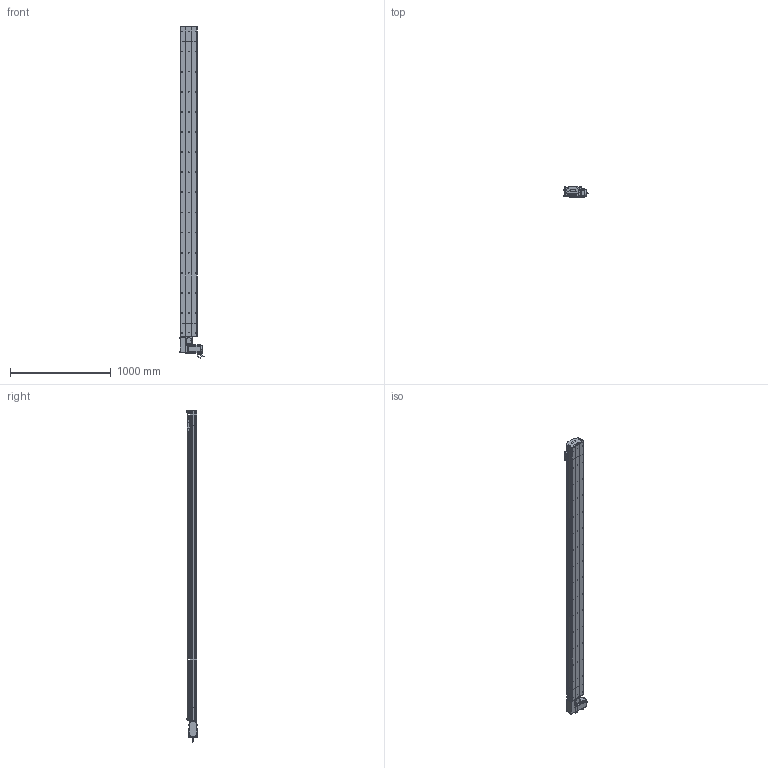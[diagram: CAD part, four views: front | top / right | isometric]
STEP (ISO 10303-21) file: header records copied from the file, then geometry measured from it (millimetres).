
FILE_DESCRIPTION (( 'STEP AP214' ), '1' );
FILE_NAME ('D17 TBN RH S2800.STEP', '2010-06-30T13:17:23', ( 'Conseil Régional Haute-Normandie' ), ( 'Conseil Régional Haute-Normandie' ), 'SwSTEP 2.0', 'SolidWorks 2010', '' );
FILE_SCHEMA (( 'AUTOMOTIVE_DESIGN' ));
Length unit declared in the file: millimetre
Products named in the file (40): vis M5 L16_Default; course 2800 D17B_Default; corp D17B 2800_Default; Couroie+ rail D17 Course 2800 ; Plaque racord D17_Default; vis M5 L70_Default; couvercle D17B course L2800_Default; Conecteur_Default; Conecteur2_Default; Head RH D17B_Default; avant 90BLDC125A-640; couvercle D17B head_Default; corpl head D17 _Default; codeur 90BLDC125-640; corps 90BLDC125A-640; plaque de  bout head D17B RH_Default; Moteur motionking 90BLDC125A-640; couroie head D17_Default; Arbre+rail head D17B; poulie head_Default; vis M5 L5_Default; Vis M5 L16-2_Default; cache D17_Default; guide D17; Chariot D17 TBN; chariot D17 TBN; vis M5 L25_Default; vis M5 L12_Default; vis M5 L8 90°_Default; plaque de  bout tail D17B_Default; Rail D17B; tete d''axe poulie D17B; couvercle D17B_Default; Couroie tail D17B_Default; poulie tail_Default; corpl tail D17B_Default; Tail D17B_Default; Renvoi RH_Default; cache arbre D17_Default; D17 TBN RH S2800
Assembly tree (66 placements, depth 4):
  D17 TBN RH S2800
    Head RH D17B_Default
      vis M5 L12_Default  x8
      vis M5 L25_Default  x2
      cache D17_Default  x2
      vis M5 L5_Default  x4
      couvercle D17B head_Default
      Vis M5 L16-2_Default  x4
      vis M5 L16_Default  x2
      vis M5 L70_Default  x4
      Arbre+rail head D17B
      Renvoi RH_Default
      couroie head D17_Default
      cache arbre D17_Default
      Moteur motionking 90BLDC125A-640
        codeur 90BLDC125-640
        corps 90BLDC125A-640
        avant 90BLDC125A-640
        Conecteur2_Default
        Conecteur_Default
      corpl head D17 _Default
      poulie head_Default
      plaque de  bout head D17B RH_Default
      Plaque racord D17_Default
    chariot D17 TBN
      guide D17  x2
      Chariot D17 TBN
    course 2800 D17B_Default
      Couroie+ rail D17 Course 2800 
      couvercle D17B course L2800_Default
      corp D17B 2800_Default
    Tail D17B_Default
      vis M5 L12_Default  x4
      couvercle D17B_Default
      vis M5 L8 90°_Default  x2
      poulie tail_Default
      plaque de  bout tail D17B_Default
      Rail D17B
      Couroie tail D17B_Default
      vis M5 L25_Default  x2
      tete d''axe poulie D17B
      corpl tail D17B_Default
Bounding box: 245.2 x 105.65 x 3300.95 mm (x, y, z)
Volume: 18284074.7 mm3; surface area: 5333167.9 mm2
Topology: 89 solids, 89 shells, 2639 faces, 6781 edges, 4370 vertices
Faces by surface type: plane 1533, cylinder 809, bspline 136, cone 80, torus 77, sphere 4
Entity records: 85907 total; most frequent: CARTESIAN_POINT 25483, ORIENTED_EDGE 10734, DIRECTION 10132, EDGE_CURVE 5367, VERTEX_POINT 3514, LINE 3506, VECTOR 3506, AXIS2_PLACEMENT_3D 3313
